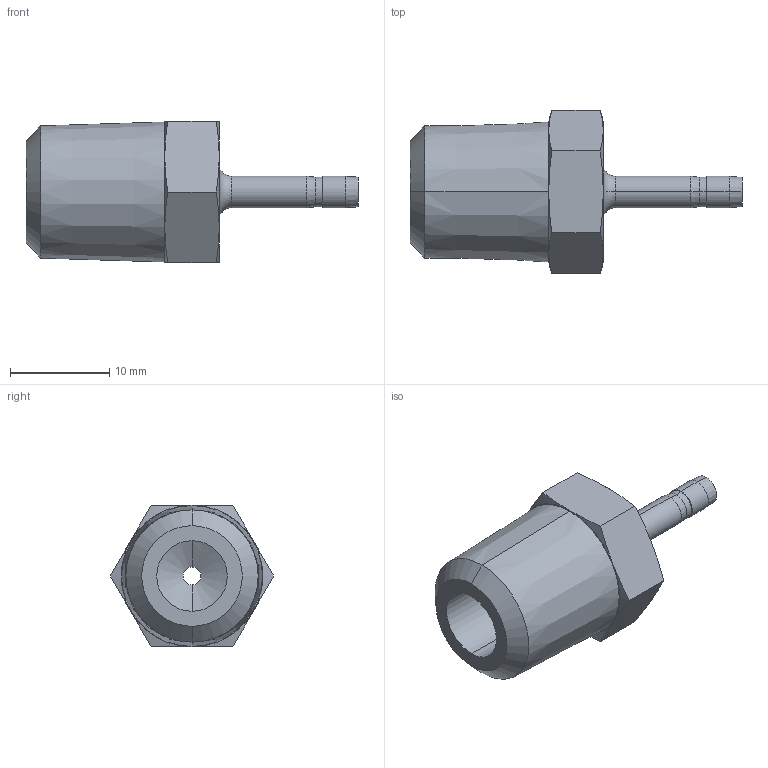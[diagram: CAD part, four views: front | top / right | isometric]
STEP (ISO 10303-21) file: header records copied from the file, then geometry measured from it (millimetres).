
FILE_DESCRIPTION (( 'STEP AP203' ), '1' );
FILE_NAME ('DHA02-04 SS.STEP', '2009-09-08T06:14:29', ( ' ' ), ( '' ), 'SwSTEP 2.0', 'SolidWorks 2008', '' );
FILE_SCHEMA (( 'CONFIG_CONTROL_DESIGN' ));
Length unit declared in the file: millimetre
Products named in the file (1): DHA02-04 SS
Bounding box: 33.5 x 16.5 x 14.29 mm (x, y, z)
Volume: 2440.9 mm3; surface area: 1727 mm2
Topology: 1 solids, 1 shells, 46 faces, 96 edges, 54 vertices
Faces by surface type: cone 24, cylinder 10, plane 10, torus 2
Entity records: 1317 total; most frequent: CARTESIAN_POINT 277, DIRECTION 210, ORIENTED_EDGE 192, EDGE_CURVE 96, AXIS2_PLACEMENT_3D 91, VERTEX_POINT 54, EDGE_LOOP 50, ADVANCED_FACE 46
